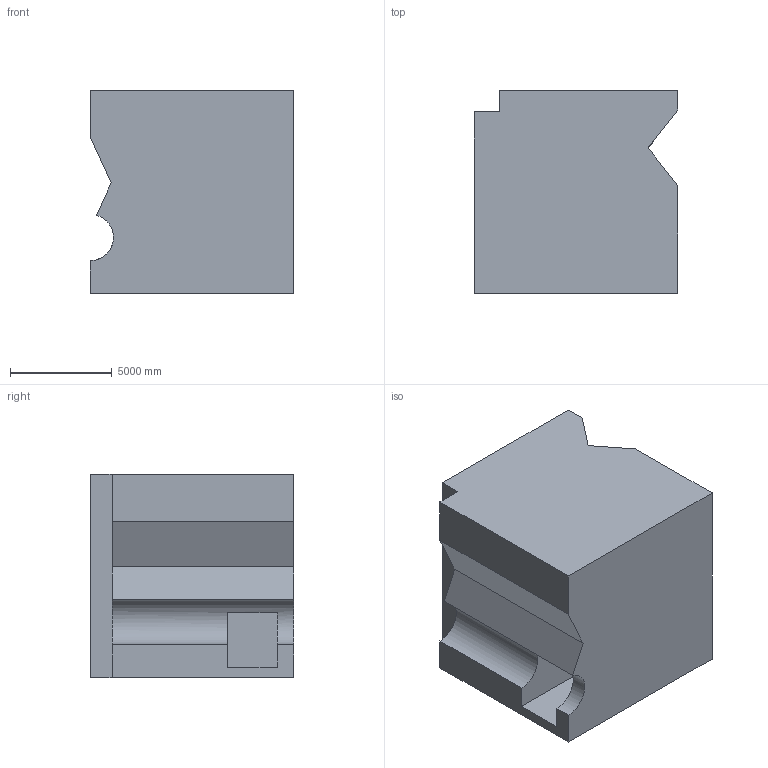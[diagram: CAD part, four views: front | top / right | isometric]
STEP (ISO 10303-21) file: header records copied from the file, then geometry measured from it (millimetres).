
FILE_DESCRIPTION (( 'STEP AP203' ), '1' );
FILE_NAME ('426.STEP', '2022-07-29T11:14:02', ( 'user' ), ( '' ), 'SwSTEP 2.0', 'SolidWorks 2021', '' );
FILE_SCHEMA (( 'CONFIG_CONTROL_DESIGN' ));
Length unit declared in the file: centimetre
Products named in the file (1): 426
Bounding box: 10000 x 10000 x 10000 mm (x, y, z)
Volume: 886390655963.9 mm3; surface area: 660279750.4 mm2
Topology: 1 solids, 1 shells, 20 faces, 54 edges, 36 vertices
Faces by surface type: plane 19, cylinder 1
Entity records: 699 total; most frequent: CARTESIAN_POINT 111, ORIENTED_EDGE 108, DIRECTION 100, EDGE_CURVE 54, LINE 50, VECTOR 50, VERTEX_POINT 36, AXIS2_PLACEMENT_3D 25
